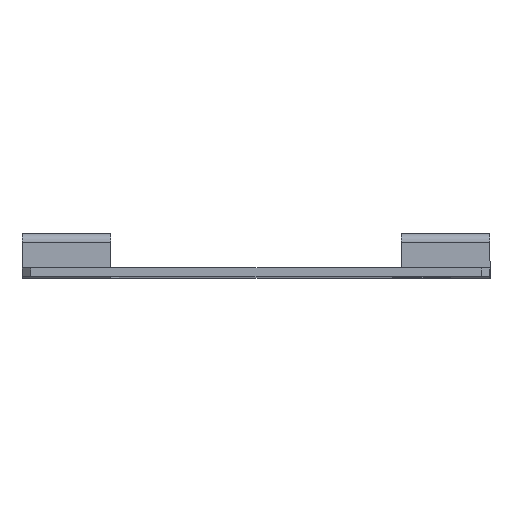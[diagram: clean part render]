
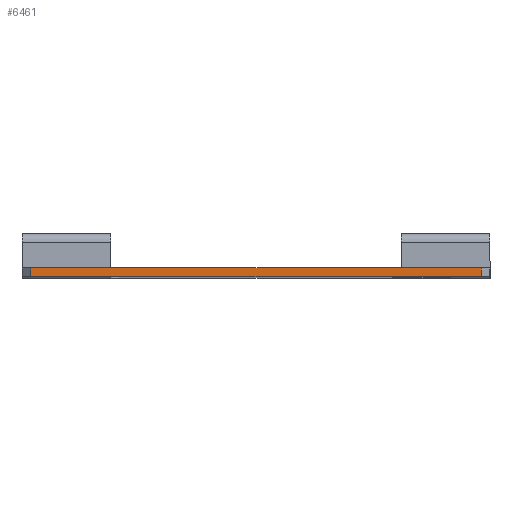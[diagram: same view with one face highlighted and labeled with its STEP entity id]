
A CAD part, top view. The second image highlights one B-rep face of the part: STEP entity #6461.
In plain terms, the highlighted planar face has unit normal (0, 0, 1).
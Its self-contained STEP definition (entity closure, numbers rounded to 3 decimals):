
#204 = CARTESIAN_POINT ( 'NONE',  ( 3., 2., 5. ) ) ;
#241 = CARTESIAN_POINT ( 'NONE',  ( -101., 0., 5. ) ) ;
#328 = VERTEX_POINT ( 'NONE', #1168 ) ;
#443 = VECTOR ( 'NONE', #1804, 1000. ) ;
#532 = VECTOR ( 'NONE', #4753, 1000. ) ;
#665 = VERTEX_POINT ( 'NONE', #11065 ) ;
#1032 = CARTESIAN_POINT ( 'NONE',  ( -49., 0., 5. ) ) ;
#1091 = DIRECTION ( 'NONE',  ( 0., 0., 1. ) ) ;
#1168 = CARTESIAN_POINT ( 'NONE',  ( -101., 2., 5. ) ) ;
#1198 = CARTESIAN_POINT ( 'NONE',  ( 3., 2., 5. ) ) ;
#1615 = VECTOR ( 'NONE', #1704, 1000. ) ;
#1641 = LINE ( 'NONE', #10871, #1615 ) ;
#1704 = DIRECTION ( 'NONE',  ( 0., -1., 0. ) ) ;
#1804 = DIRECTION ( 'NONE',  ( 1., 0., 0. ) ) ;
#1823 = VERTEX_POINT ( 'NONE', #241 ) ;
#2053 = LINE ( 'NONE', #9186, #443 ) ;
#2166 = ORIENTED_EDGE ( 'NONE', *, *, #8949, .T. ) ;
#2759 = EDGE_CURVE ( 'NONE', #1823, #665, #10087, .T. ) ;
#2980 = FACE_OUTER_BOUND ( 'NONE', #8589, .T. ) ;
#3268 = PLANE ( 'NONE',  #4158 ) ;
#3388 = VECTOR ( 'NONE', #8536, 1000. ) ;
#3612 = ORIENTED_EDGE ( 'NONE', *, *, #5652, .T. ) ;
#4158 = AXIS2_PLACEMENT_3D ( 'NONE', #6630, #1091, #9733 ) ;
#4753 = DIRECTION ( 'NONE',  ( 1., 0., 0. ) ) ;
#5564 = EDGE_CURVE ( 'NONE', #328, #10237, #2053, .T. ) ;
#5652 = EDGE_CURVE ( 'NONE', #665, #10237, #7449, .T. ) ;
#6119 = ORIENTED_EDGE ( 'NONE', *, *, #2759, .T. ) ;
#6461 = ADVANCED_FACE ( 'NONE', ( #2980 ), #3268, .T. ) ;
#6630 = CARTESIAN_POINT ( 'NONE',  ( -103., 2., 5. ) ) ;
#7449 = LINE ( 'NONE', #204, #3388 ) ;
#7681 = ORIENTED_EDGE ( 'NONE', *, *, #5564, .F. ) ;
#8536 = DIRECTION ( 'NONE',  ( 0., 1., 0. ) ) ;
#8589 = EDGE_LOOP ( 'NONE', ( #7681, #2166, #6119, #3612 ) ) ;
#8949 = EDGE_CURVE ( 'NONE', #328, #1823, #1641, .T. ) ;
#9186 = CARTESIAN_POINT ( 'NONE',  ( -103., 2., 5. ) ) ;
#9733 = DIRECTION ( 'NONE',  ( 1., 0., 0. ) ) ;
#10087 = LINE ( 'NONE', #1032, #532 ) ;
#10237 = VERTEX_POINT ( 'NONE', #1198 ) ;
#10871 = CARTESIAN_POINT ( 'NONE',  ( -101., 2., 5. ) ) ;
#11065 = CARTESIAN_POINT ( 'NONE',  ( 3., 0., 5. ) ) ;
